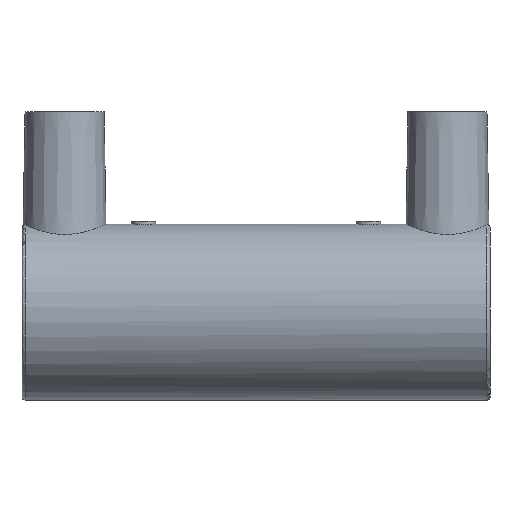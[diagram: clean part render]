
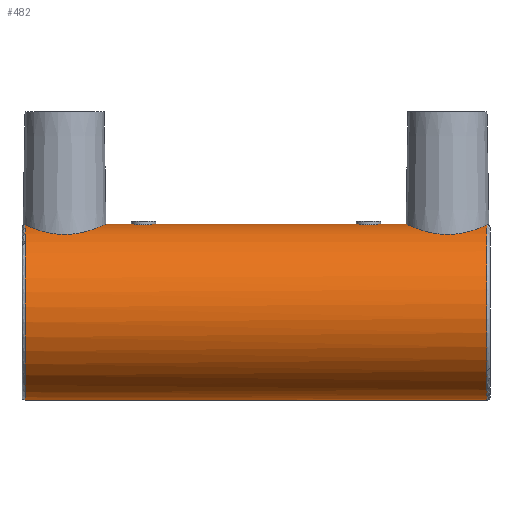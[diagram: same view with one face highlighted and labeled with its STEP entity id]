
A CAD part, front view. The second image highlights one B-rep face of the part: STEP entity #482.
In plain terms, the highlighted cylindrical face has radius 14.5 mm (diameter 29 mm), a full revolution.
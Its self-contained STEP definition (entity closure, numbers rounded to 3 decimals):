
#92=CIRCLE('',#532,14.5);
#93=CIRCLE('',#533,14.5);
#122=ORIENTED_EDGE('',*,*,#242,.F.);
#123=ORIENTED_EDGE('',*,*,#243,.F.);
#124=ORIENTED_EDGE('',*,*,#244,.T.);
#125=ORIENTED_EDGE('',*,*,#245,.T.);
#126=ORIENTED_EDGE('',*,*,#246,.T.);
#127=ORIENTED_EDGE('',*,*,#247,.T.);
#242=EDGE_CURVE('',#302,#302,#348,.T.);
#243=EDGE_CURVE('',#303,#303,#349,.T.);
#244=EDGE_CURVE('',#304,#305,#92,.F.);
#245=EDGE_CURVE('',#305,#304,#350,.T.);
#246=EDGE_CURVE('',#306,#307,#93,.F.);
#247=EDGE_CURVE('',#307,#306,#351,.T.);
#302=VERTEX_POINT('',#768);
#303=VERTEX_POINT('',#780);
#304=VERTEX_POINT('',#782);
#305=VERTEX_POINT('',#783);
#306=VERTEX_POINT('',#804);
#307=VERTEX_POINT('',#805);
#348=B_SPLINE_CURVE_WITH_KNOTS('',3,(#757,#758,#759,#760,#761,#762,#763,
#764,#765,#766,#767),.UNSPECIFIED.,.T.,.F.,(1,1,1,1,1,1,1,1,1,1,1,1,1,1,
1),(-0.005,-0.003,-0.002,0.,
0.002,0.003,0.005,0.006,
0.008,0.009,0.011,0.013,
0.014,0.016,0.017),.UNSPECIFIED.);
#349=B_SPLINE_CURVE_WITH_KNOTS('',3,(#769,#770,#771,#772,#773,#774,#775,
#776,#777,#778,#779),.UNSPECIFIED.,.T.,.F.,(1,1,1,1,1,1,1,1,1,1,1,1,1,1,
1),(-0.005,-0.003,-0.002,0.,
0.002,0.003,0.005,0.006,
0.008,0.009,0.011,0.013,
0.014,0.016,0.017),.UNSPECIFIED.);
#350=B_SPLINE_CURVE_WITH_KNOTS('',3,(#784,#785,#786,#787,#788,#789,#790,
#791,#792,#793,#794,#795,#796,#797,#798,#799,#800,#801,#802),
 .UNSPECIFIED.,.F.,.F.,(4,1,1,1,1,1,1,1,1,1,1,1,1,1,1,1,4),(0.,
0.002,0.005,0.007,0.01,
0.012,0.015,0.017,0.02,
0.022,0.024,0.027,0.029,
0.032,0.034,0.037,0.039),
 .UNSPECIFIED.);
#351=B_SPLINE_CURVE_WITH_KNOTS('',3,(#806,#807,#808,#809,#810,#811,#812,
#813,#814,#815,#816,#817,#818,#819,#820,#821,#822,#823,#824),
 .UNSPECIFIED.,.F.,.F.,(4,1,1,1,1,1,1,1,1,1,1,1,1,1,1,1,4),(0.,
0.002,0.005,0.007,0.01,
0.012,0.015,0.017,0.02,
0.022,0.024,0.027,0.029,
0.032,0.034,0.037,0.039),
 .UNSPECIFIED.);
#354=EDGE_LOOP('',(#122));
#355=EDGE_LOOP('',(#123));
#356=EDGE_LOOP('',(#124,#125));
#357=EDGE_LOOP('',(#126,#127));
#412=FACE_BOUND('',#354,.T.);
#413=FACE_BOUND('',#355,.T.);
#414=FACE_BOUND('',#356,.T.);
#415=FACE_BOUND('',#357,.T.);
#470=CYLINDRICAL_SURFACE('',#531,14.5);
#482=ADVANCED_FACE('',(#412,#413,#414,#415),#470,.T.);
#531=AXIS2_PLACEMENT_3D('',#756,#599,#600);
#532=AXIS2_PLACEMENT_3D('',#781,#601,#602);
#533=AXIS2_PLACEMENT_3D('',#803,#603,#604);
#599=DIRECTION('',(-1.,0.,0.));
#600=DIRECTION('',(0.,0.,1.));
#601=DIRECTION('',(-1.,0.,0.));
#602=DIRECTION('',(0.,0.,1.));
#603=DIRECTION('',(1.,0.,0.));
#604=DIRECTION('',(0.,0.,-1.));
#756=CARTESIAN_POINT('',(-60.,0.,0.));
#757=CARTESIAN_POINT('',(20.066,-1.569,14.431));
#758=CARTESIAN_POINT('',(20.717,0.,14.535));
#759=CARTESIAN_POINT('',(20.066,1.567,14.431));
#760=CARTESIAN_POINT('',(18.502,2.216,14.327));
#761=CARTESIAN_POINT('',(16.933,1.568,14.431));
#762=CARTESIAN_POINT('',(16.284,0.,14.534));
#763=CARTESIAN_POINT('',(16.931,-1.565,14.431));
#764=CARTESIAN_POINT('',(18.498,-2.216,14.327));
#765=CARTESIAN_POINT('',(20.066,-1.569,14.431));
#766=CARTESIAN_POINT('',(20.717,0.,14.535));
#767=CARTESIAN_POINT('',(20.066,1.567,14.431));
#768=CARTESIAN_POINT('',(20.5,0.,14.5));
#769=CARTESIAN_POINT('',(-16.934,-1.569,14.431));
#770=CARTESIAN_POINT('',(-16.283,0.,14.535));
#771=CARTESIAN_POINT('',(-16.934,1.567,14.431));
#772=CARTESIAN_POINT('',(-18.498,2.216,14.327));
#773=CARTESIAN_POINT('',(-20.067,1.568,14.431));
#774=CARTESIAN_POINT('',(-20.716,0.,14.534));
#775=CARTESIAN_POINT('',(-20.069,-1.565,14.431));
#776=CARTESIAN_POINT('',(-18.502,-2.216,14.327));
#777=CARTESIAN_POINT('',(-16.934,-1.569,14.431));
#778=CARTESIAN_POINT('',(-16.283,0.,14.535));
#779=CARTESIAN_POINT('',(-16.934,1.567,14.431));
#780=CARTESIAN_POINT('',(-16.5,0.,14.5));
#781=CARTESIAN_POINT('',(-38.,0.,0.));
#782=CARTESIAN_POINT('',(-38.,-2.083,14.35));
#783=CARTESIAN_POINT('',(-38.,2.083,14.35));
#784=CARTESIAN_POINT('',(-38.,2.083,14.35));
#785=CARTESIAN_POINT('',(-37.752,2.865,14.236));
#786=CARTESIAN_POINT('',(-36.993,4.294,13.897));
#787=CARTESIAN_POINT('',(-35.204,5.922,13.261));
#788=CARTESIAN_POINT('',(-32.937,6.851,12.782));
#789=CARTESIAN_POINT('',(-30.427,6.92,12.743));
#790=CARTESIAN_POINT('',(-28.093,6.101,13.176));
#791=CARTESIAN_POINT('',(-26.228,4.566,13.808));
#792=CARTESIAN_POINT('',(-24.982,2.472,14.352));
#793=CARTESIAN_POINT('',(-24.528,0.018,14.573));
#794=CARTESIAN_POINT('',(-24.97,-2.444,14.357));
#795=CARTESIAN_POINT('',(-26.213,-4.549,13.813));
#796=CARTESIAN_POINT('',(-28.074,-6.089,13.181));
#797=CARTESIAN_POINT('',(-30.393,-6.914,12.746));
#798=CARTESIAN_POINT('',(-32.912,-6.859,12.778));
#799=CARTESIAN_POINT('',(-35.197,-5.928,13.258));
#800=CARTESIAN_POINT('',(-36.987,-4.303,13.895));
#801=CARTESIAN_POINT('',(-37.751,-2.865,14.236));
#802=CARTESIAN_POINT('',(-38.,-2.083,14.35));
#803=CARTESIAN_POINT('',(38.,0.,0.));
#804=CARTESIAN_POINT('',(38.,2.083,14.35));
#805=CARTESIAN_POINT('',(38.,-2.083,14.35));
#806=CARTESIAN_POINT('',(38.,-2.083,14.35));
#807=CARTESIAN_POINT('',(37.752,-2.865,14.236));
#808=CARTESIAN_POINT('',(36.993,-4.294,13.897));
#809=CARTESIAN_POINT('',(35.204,-5.922,13.261));
#810=CARTESIAN_POINT('',(32.937,-6.851,12.782));
#811=CARTESIAN_POINT('',(30.427,-6.92,12.743));
#812=CARTESIAN_POINT('',(28.093,-6.101,13.176));
#813=CARTESIAN_POINT('',(26.228,-4.566,13.808));
#814=CARTESIAN_POINT('',(24.982,-2.472,14.352));
#815=CARTESIAN_POINT('',(24.528,-0.018,14.573));
#816=CARTESIAN_POINT('',(24.97,2.444,14.357));
#817=CARTESIAN_POINT('',(26.213,4.549,13.813));
#818=CARTESIAN_POINT('',(28.074,6.089,13.181));
#819=CARTESIAN_POINT('',(30.393,6.914,12.746));
#820=CARTESIAN_POINT('',(32.912,6.859,12.778));
#821=CARTESIAN_POINT('',(35.197,5.928,13.258));
#822=CARTESIAN_POINT('',(36.987,4.303,13.895));
#823=CARTESIAN_POINT('',(37.751,2.865,14.236));
#824=CARTESIAN_POINT('',(38.,2.083,14.35));
